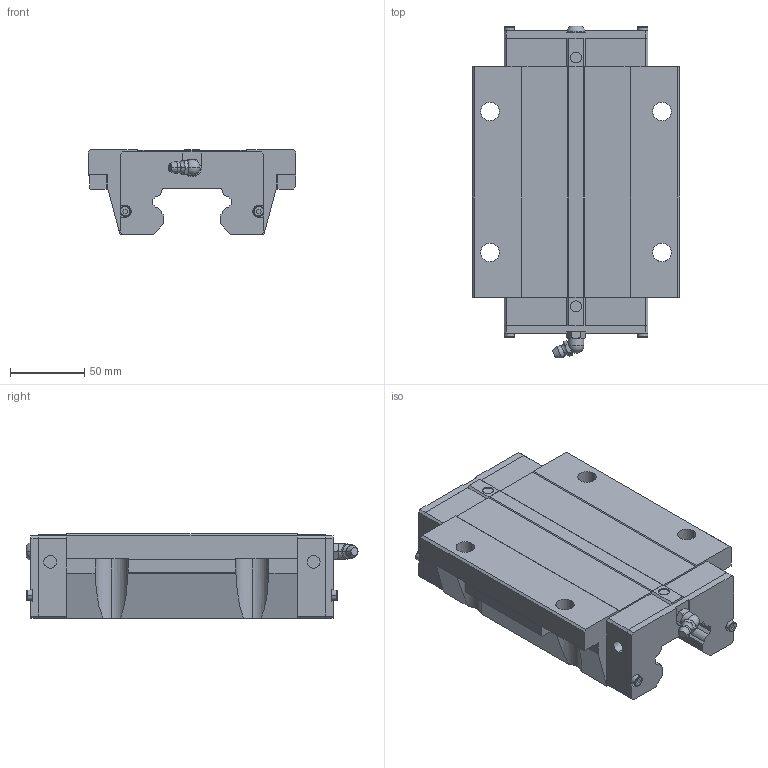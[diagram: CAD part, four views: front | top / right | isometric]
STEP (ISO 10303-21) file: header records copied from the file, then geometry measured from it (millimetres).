
FILE_DESCRIPTION(('no description'),'unknown implementation level');
FILE_NAME('HGW55HC_Z0_H_SS_27.stp',' ',('HIWIN GmbH'),('CADClick - KiM GmbH - www.kimweb.de'),'unknown preprocess','ACIS','unknown authorization');
FILE_SCHEMA(('automotive_design'));
Length unit declared in the file: millimetre
Products named in the file (1): HGW55HC Z0 H SS
Bounding box: 140 x 223.93 x 57 mm (x, y, z)
Volume: 998471.8 mm3; surface area: 105172.4 mm2
Topology: 1 solids, 6 shells, 313 faces, 828 edges, 534 vertices
Faces by surface type: plane 199, cylinder 68, torus 30, cone 14, sphere 2
Entity records: 19164 total; most frequent: CARTESIAN_POINT 1974, STYLED_ITEM 1674, PRESENTATION_STYLE_ASSIGNMENT 1674, COLOUR_RGB 1674, ORIENTED_EDGE 1652, DIRECTION 1636, EDGE_CURVE 826, CURVE_STYLE 826
